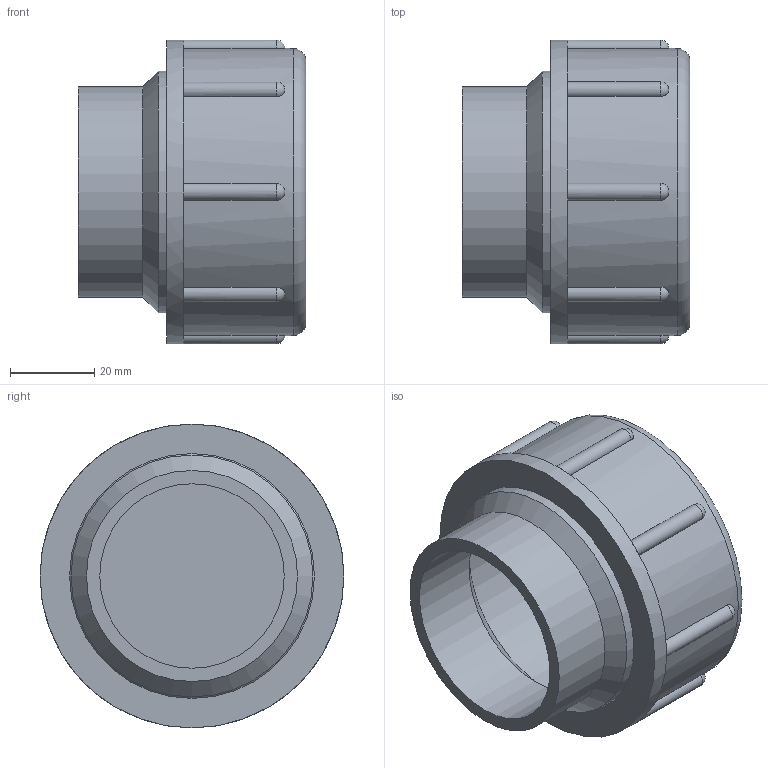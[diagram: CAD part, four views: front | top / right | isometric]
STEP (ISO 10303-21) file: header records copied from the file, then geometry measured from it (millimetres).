
FILE_DESCRIPTION(/* description */ (''),/* implementation_level */ '2;1');
FILE_NAME(/* name */ 'Z:\Geberit\Export\NewStep\Gewindest. m. Verschlk._Iassembly\stp\361750.stp',/* time_stamp */ '2014-04-03T17:41:12+02:00',/* author */ ('Marco'),/* organization */ (''),/* preprocessor_version */ 'ST-DEVELOPER v15.2',/* originating_system */ 'Autodesk Inventor 2014',/* authorisation */ '');
FILE_SCHEMA (('AUTOMOTIVE_DESIGN { 1 0 10303 214 3 1 1 }'));
Length unit declared in the file: millimetre
Products named in the file (3): 361784; 361785; 361750
Bounding box: 54 x 72 x 72 mm (x, y, z)
Volume: 79797.2 mm3; surface area: 38847.5 mm2
Topology: 2 solids, 2 shells, 43 faces, 112 edges, 65 vertices
Faces by surface type: cylinder 17, plane 12, sphere 8, cone 5, torus 1
Full cylindrical faces by diameter (mm): 43.7 x1, 50 x1, 50.9 x1, 57.3 x2, 58 x1, 62 x1, 68 x1, 72 x1
Entity records: 1447 total; most frequent: CARTESIAN_POINT 378, DIRECTION 226, ORIENTED_EDGE 178, AXIS2_PLACEMENT_3D 105, EDGE_CURVE 89, VERTEX_POINT 65, EDGE_LOOP 60, CIRCLE 57
